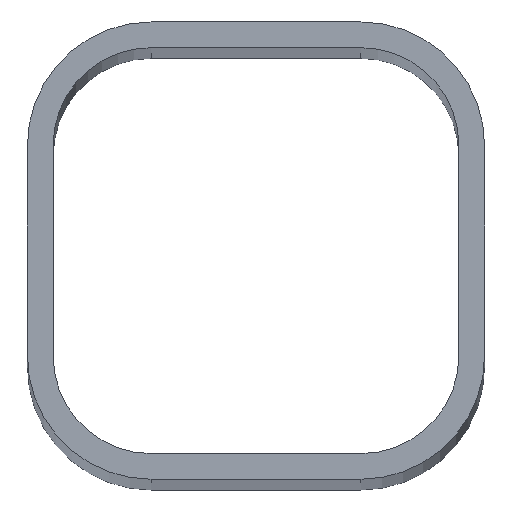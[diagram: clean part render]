
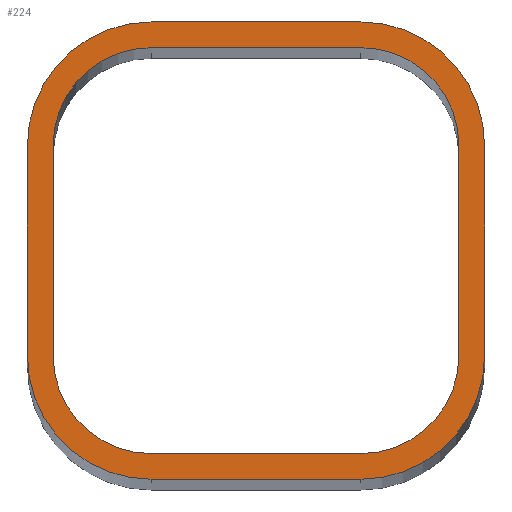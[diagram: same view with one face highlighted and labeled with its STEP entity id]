
A CAD part, top view. The second image highlights one B-rep face of the part: STEP entity #224.
In plain terms, the highlighted planar face has unit normal (0, 0, 1).
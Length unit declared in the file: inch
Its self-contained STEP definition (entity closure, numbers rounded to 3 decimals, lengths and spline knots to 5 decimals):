
#7 = LINE ( 'NONE', #323, #248 ) ;
#8 = ORIENTED_EDGE ( 'NONE', *, *, #171, .T. ) ;
#12 = ORIENTED_EDGE ( 'NONE', *, *, #178, .T. ) ;
#13 = ORIENTED_EDGE ( 'NONE', *, *, #198, .F. ) ;
#15 = ORIENTED_EDGE ( 'NONE', *, *, #174, .F. ) ;
#16 = ORIENTED_EDGE ( 'NONE', *, *, #179, .F. ) ;
#18 = ORIENTED_EDGE ( 'NONE', *, *, #185, .F. ) ;
#20 = ORIENTED_EDGE ( 'NONE', *, *, #217, .F. ) ;
#21 = ORIENTED_EDGE ( 'NONE', *, *, #183, .T. ) ;
#22 = ORIENTED_EDGE ( 'NONE', *, *, #184, .T. ) ;
#25 = ORIENTED_EDGE ( 'NONE', *, *, #213, .T. ) ;
#29 = ORIENTED_EDGE ( 'NONE', *, *, #180, .T. ) ;
#46 = ORIENTED_EDGE ( 'NONE', *, *, #215, .T. ) ;
#55 = ORIENTED_EDGE ( 'NONE', *, *, #173, .F. ) ;
#58 = ORIENTED_EDGE ( 'NONE', *, *, #182, .T. ) ;
#64 = VECTOR ( 'NONE', #381, 39.37008 ) ;
#69 = CIRCLE ( 'NONE', #75, 0.24062 ) ;
#75 = AXIS2_PLACEMENT_3D ( 'NONE', #386, #387, #388 ) ;
#81 = AXIS2_PLACEMENT_3D ( 'NONE', #575, #572, #580 ) ;
#96 = VECTOR ( 'NONE', #393, 39.37008 ) ;
#97 = CIRCLE ( 'NONE', #98, 0.19062 ) ;
#98 = AXIS2_PLACEMENT_3D ( 'NONE', #375, #376, #377 ) ;
#111 = CARTESIAN_POINT ( 'NONE',  ( -0.20438, 0.395, 6. ) ) ;
#112 = CARTESIAN_POINT ( 'NONE',  ( -0.395, 0.20438, 6. ) ) ;
#116 = CARTESIAN_POINT ( 'NONE',  ( -0.395, -0.20438, 6. ) ) ;
#117 = CARTESIAN_POINT ( 'NONE',  ( 0.395, -0.20438, 6. ) ) ;
#118 = CARTESIAN_POINT ( 'NONE',  ( 0.445, 0.20438, 6. ) ) ;
#120 = CARTESIAN_POINT ( 'NONE',  ( -0.20438, -0.395, 6. ) ) ;
#122 = CARTESIAN_POINT ( 'NONE',  ( -0.20438, 0.445, 6. ) ) ;
#124 = CARTESIAN_POINT ( 'NONE',  ( 0.20438, 0.395, 6. ) ) ;
#125 = CARTESIAN_POINT ( 'NONE',  ( 0.445, -0.20438, 6. ) ) ;
#126 = CARTESIAN_POINT ( 'NONE',  ( 0.395, 0.20438, 6. ) ) ;
#131 = CARTESIAN_POINT ( 'NONE',  ( 0.20438, -0.395, 6. ) ) ;
#135 = CARTESIAN_POINT ( 'NONE',  ( 0.20438, -0.445, 6. ) ) ;
#136 = CARTESIAN_POINT ( 'NONE',  ( -0.445, 0.20438, 6. ) ) ;
#138 = CARTESIAN_POINT ( 'NONE',  ( -0.20438, -0.445, 6. ) ) ;
#169 = CARTESIAN_POINT ( 'NONE',  ( -0.20438, 0.20438, 6. ) ) ;
#171 = EDGE_CURVE ( 'NONE', #492, #503, #338, .T. ) ;
#173 = EDGE_CURVE ( 'NONE', #505, #489, #7, .T. ) ;
#174 = EDGE_CURVE ( 'NONE', #507, #505, #255, .T. ) ;
#177 = EDGE_CURVE ( 'NONE', #501, #519, #307, .T. ) ;
#178 = EDGE_CURVE ( 'NONE', #499, #492, #254, .T. ) ;
#179 = EDGE_CURVE ( 'NONE', #519, #498, #267, .T. ) ;
#180 = EDGE_CURVE ( 'NONE', #523, #518, #296, .T. ) ;
#182 = EDGE_CURVE ( 'NONE', #494, #523, #278, .T. ) ;
#183 = EDGE_CURVE ( 'NONE', #518, #506, #260, .T. ) ;
#184 = EDGE_CURVE ( 'NONE', #506, #499, #220, .T. ) ;
#185 = EDGE_CURVE ( 'NONE', #490, #497, #365, .T. ) ;
#198 = EDGE_CURVE ( 'NONE', #489, #490, #275, .T. ) ;
#211 = EDGE_CURVE ( 'NONE', #497, #501, #97, .T. ) ;
#213 = EDGE_CURVE ( 'NONE', #520, #494, #379, .T. ) ;
#215 = EDGE_CURVE ( 'NONE', #503, #520, #69, .T. ) ;
#217 = EDGE_CURVE ( 'NONE', #498, #507, #390, .T. ) ;
#220 = LINE ( 'NONE', #364, #273 ) ;
#224 = ADVANCED_FACE ( 'NONE', ( #576, #569 ), #578, .T. ) ;
#247 = AXIS2_PLACEMENT_3D ( 'NONE', #331, #333, #334 ) ;
#248 = VECTOR ( 'NONE', #330, 39.37008 ) ;
#254 = CIRCLE ( 'NONE', #265, 0.24062 ) ;
#255 = CIRCLE ( 'NONE', #247, 0.19062 ) ;
#256 = VECTOR ( 'NONE', #304, 39.37008 ) ;
#257 = VECTOR ( 'NONE', #343, 39.37008 ) ;
#260 = CIRCLE ( 'NONE', #270, 0.24062 ) ;
#263 = VECTOR ( 'NONE', #349, 39.37008 ) ;
#264 = AXIS2_PLACEMENT_3D ( 'NONE', #301, #300, #297 ) ;
#265 = AXIS2_PLACEMENT_3D ( 'NONE', #561, #313, #308 ) ;
#267 = CIRCLE ( 'NONE', #264, 0.19062 ) ;
#268 = VECTOR ( 'NONE', #328, 39.37008 ) ;
#270 = AXIS2_PLACEMENT_3D ( 'NONE', #353, #354, #352 ) ;
#271 = AXIS2_PLACEMENT_3D ( 'NONE', #525, #356, #357 ) ;
#272 = AXIS2_PLACEMENT_3D ( 'NONE', #169, #362, #598 ) ;
#273 = VECTOR ( 'NONE', #366, 39.37008 ) ;
#275 = CIRCLE ( 'NONE', #272, 0.19062 ) ;
#278 = CIRCLE ( 'NONE', #271, 0.24062 ) ;
#296 = LINE ( 'NONE', #344, #268 ) ;
#297 = DIRECTION ( 'NONE',  ( 1., 0., 0. ) ) ;
#300 = DIRECTION ( 'NONE',  ( 0., 0., 1. ) ) ;
#301 = CARTESIAN_POINT ( 'NONE',  ( 0.20438, -0.20438, 6. ) ) ;
#303 = CARTESIAN_POINT ( 'NONE',  ( -0.20438, -0.395, 6. ) ) ;
#304 = DIRECTION ( 'NONE',  ( 1., 0., 0. ) ) ;
#307 = LINE ( 'NONE', #303, #256 ) ;
#308 = DIRECTION ( 'NONE',  ( 1., 0., 0. ) ) ;
#313 = DIRECTION ( 'NONE',  ( 0., 0., 1. ) ) ;
#323 = CARTESIAN_POINT ( 'NONE',  ( 0.20438, 0.395, 6. ) ) ;
#328 = DIRECTION ( 'NONE',  ( 1., 0., 0. ) ) ;
#330 = DIRECTION ( 'NONE',  ( -1., 0., 0. ) ) ;
#331 = CARTESIAN_POINT ( 'NONE',  ( 0.20438, 0.20438, 6. ) ) ;
#333 = DIRECTION ( 'NONE',  ( 0., 0., 1. ) ) ;
#334 = DIRECTION ( 'NONE',  ( 1., 0., 0. ) ) ;
#336 = EDGE_LOOP ( 'NONE', ( #12, #8, #46, #25, #58, #29, #21, #22 ) ) ;
#338 = LINE ( 'NONE', #342, #257 ) ;
#342 = CARTESIAN_POINT ( 'NONE',  ( 0.20438, 0.445, 6. ) ) ;
#343 = DIRECTION ( 'NONE',  ( -1., 0., 0. ) ) ;
#344 = CARTESIAN_POINT ( 'NONE',  ( -0.20438, -0.445, 6. ) ) ;
#349 = DIRECTION ( 'NONE',  ( 0., -1., 0. ) ) ;
#351 = CARTESIAN_POINT ( 'NONE',  ( -0.395, -0.20438, 6. ) ) ;
#352 = DIRECTION ( 'NONE',  ( 1., 0., 0. ) ) ;
#353 = CARTESIAN_POINT ( 'NONE',  ( 0.20438, -0.20438, 6. ) ) ;
#354 = DIRECTION ( 'NONE',  ( 0., 0., 1. ) ) ;
#356 = DIRECTION ( 'NONE',  ( 0., 0., 1. ) ) ;
#357 = DIRECTION ( 'NONE',  ( 1., 0., 0. ) ) ;
#362 = DIRECTION ( 'NONE',  ( 0., 0., 1. ) ) ;
#364 = CARTESIAN_POINT ( 'NONE',  ( 0.445, 0.20438, 6. ) ) ;
#365 = LINE ( 'NONE', #351, #263 ) ;
#366 = DIRECTION ( 'NONE',  ( 0., 1., 0. ) ) ;
#375 = CARTESIAN_POINT ( 'NONE',  ( -0.20438, -0.20438, 6. ) ) ;
#376 = DIRECTION ( 'NONE',  ( 0., 0., 1. ) ) ;
#377 = DIRECTION ( 'NONE',  ( 1., 0., 0. ) ) ;
#379 = LINE ( 'NONE', #380, #64 ) ;
#380 = CARTESIAN_POINT ( 'NONE',  ( -0.445, -0.20438, 6. ) ) ;
#381 = DIRECTION ( 'NONE',  ( 0., -1., 0. ) ) ;
#386 = CARTESIAN_POINT ( 'NONE',  ( -0.20438, 0.20438, 6. ) ) ;
#387 = DIRECTION ( 'NONE',  ( 0., 0., 1. ) ) ;
#388 = DIRECTION ( 'NONE',  ( 1., 0., 0. ) ) ;
#390 = LINE ( 'NONE', #392, #96 ) ;
#392 = CARTESIAN_POINT ( 'NONE',  ( 0.395, 0.20438, 6. ) ) ;
#393 = DIRECTION ( 'NONE',  ( 0., 1., 0. ) ) ;
#413 = CARTESIAN_POINT ( 'NONE',  ( 0.20438, 0.445, 6. ) ) ;
#415 = CARTESIAN_POINT ( 'NONE',  ( -0.445, -0.20438, 6. ) ) ;
#429 = ORIENTED_EDGE ( 'NONE', *, *, #211, .F. ) ;
#433 = ORIENTED_EDGE ( 'NONE', *, *, #177, .F. ) ;
#487 = EDGE_LOOP ( 'NONE', ( #18, #13, #55, #15, #20, #16, #433, #429 ) ) ;
#489 = VERTEX_POINT ( 'NONE', #111 ) ;
#490 = VERTEX_POINT ( 'NONE', #112 ) ;
#492 = VERTEX_POINT ( 'NONE', #413 ) ;
#494 = VERTEX_POINT ( 'NONE', #415 ) ;
#497 = VERTEX_POINT ( 'NONE', #116 ) ;
#498 = VERTEX_POINT ( 'NONE', #117 ) ;
#499 = VERTEX_POINT ( 'NONE', #118 ) ;
#501 = VERTEX_POINT ( 'NONE', #120 ) ;
#503 = VERTEX_POINT ( 'NONE', #122 ) ;
#505 = VERTEX_POINT ( 'NONE', #124 ) ;
#506 = VERTEX_POINT ( 'NONE', #125 ) ;
#507 = VERTEX_POINT ( 'NONE', #126 ) ;
#518 = VERTEX_POINT ( 'NONE', #135 ) ;
#519 = VERTEX_POINT ( 'NONE', #131 ) ;
#520 = VERTEX_POINT ( 'NONE', #136 ) ;
#523 = VERTEX_POINT ( 'NONE', #138 ) ;
#525 = CARTESIAN_POINT ( 'NONE',  ( -0.20438, -0.20438, 6. ) ) ;
#561 = CARTESIAN_POINT ( 'NONE',  ( 0.20438, 0.20438, 6. ) ) ;
#569 = FACE_BOUND ( 'NONE', #487, .T. ) ;
#572 = DIRECTION ( 'NONE',  ( 0., 0., 1. ) ) ;
#575 = CARTESIAN_POINT ( 'NONE',  ( 0.20438, 0.20438, 6. ) ) ;
#576 = FACE_OUTER_BOUND ( 'NONE', #336, .T. ) ;
#578 = PLANE ( 'NONE',  #81 ) ;
#580 = DIRECTION ( 'NONE',  ( 1., 0., 0. ) ) ;
#598 = DIRECTION ( 'NONE',  ( 1., 0., 0. ) ) ;
